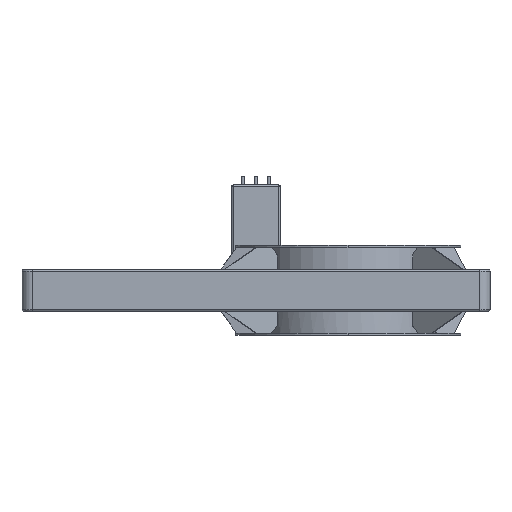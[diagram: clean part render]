
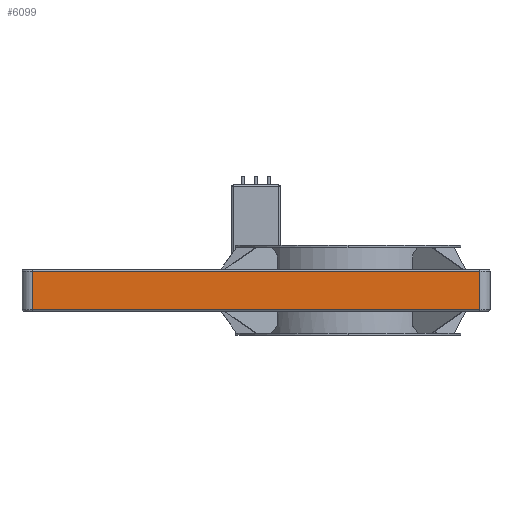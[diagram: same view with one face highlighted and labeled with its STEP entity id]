
A CAD part, front view. The second image highlights one B-rep face of the part: STEP entity #6099.
In plain terms, the highlighted free-form (B-spline) face has degree [1, 1] with [2, 2] control points.
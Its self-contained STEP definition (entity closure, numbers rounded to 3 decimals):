
#6044=CARTESIAN_POINT('',(-458.928,-158.5,-28.));
#6045=VERTEX_POINT('',#6044);
#6054=CARTESIAN_POINT('',(-458.928,-158.5,28.));
#6055=VERTEX_POINT('',#6054);
#6056=CARTESIAN_POINT('',(-458.928,-158.5,-28.));
#6057=CARTESIAN_POINT('',(-458.928,-158.5,28.));
#6058=B_SPLINE_CURVE_WITH_KNOTS('',1,(#6056,#6057),.POLYLINE_FORM.,.F.,.U.,(2,2),(0.033,0.967),.UNSPECIFIED.);
#6059=EDGE_CURVE('',#6045,#6055,#6058,.T.);
#6072=CARTESIAN_POINT('',(-458.928,-158.5,-30.));
#6073=CARTESIAN_POINT('',(-458.928,-158.5,30.));
#6074=CARTESIAN_POINT('',(190.928,-158.5,-30.));
#6075=CARTESIAN_POINT('',(190.928,-158.5,30.));
#6076=B_SPLINE_SURFACE_WITH_KNOTS('',1,1,((#6072,#6073),(#6074,#6075)),.PLANE_SURF.,.F.,.F.,.U.,(2,2),(2,2),(0.,1.),(0.,1.),.UNSPECIFIED.);
#6077=ORIENTED_EDGE('',*,*,#6059,.F.);
#6078=CARTESIAN_POINT('',(190.928,-158.5,-28.));
#6079=VERTEX_POINT('',#6078);
#6080=CARTESIAN_POINT('',(-458.928,-158.5,-28.));
#6081=CARTESIAN_POINT('',(190.928,-158.5,-28.));
#6082=B_SPLINE_CURVE_WITH_KNOTS('',1,(#6080,#6081),.POLYLINE_FORM.,.F.,.U.,(2,2),(0.,1.),.UNSPECIFIED.);
#6083=EDGE_CURVE('',#6045,#6079,#6082,.T.);
#6084=ORIENTED_EDGE('',*,*,#6083,.T.);
#6085=CARTESIAN_POINT('',(190.928,-158.5,28.));
#6086=VERTEX_POINT('',#6085);
#6087=CARTESIAN_POINT('',(190.928,-158.5,-28.));
#6088=CARTESIAN_POINT('',(190.928,-158.5,28.));
#6089=B_SPLINE_CURVE_WITH_KNOTS('',1,(#6087,#6088),.POLYLINE_FORM.,.F.,.U.,(2,2),(0.033,0.967),.UNSPECIFIED.);
#6090=EDGE_CURVE('',#6079,#6086,#6089,.T.);
#6091=ORIENTED_EDGE('',*,*,#6090,.T.);
#6092=CARTESIAN_POINT('',(-458.928,-158.5,28.));
#6093=CARTESIAN_POINT('',(190.928,-158.5,28.));
#6094=B_SPLINE_CURVE_WITH_KNOTS('',1,(#6092,#6093),.POLYLINE_FORM.,.F.,.U.,(2,2),(0.,1.),.UNSPECIFIED.);
#6095=EDGE_CURVE('',#6055,#6086,#6094,.T.);
#6096=ORIENTED_EDGE('',*,*,#6095,.F.);
#6097=EDGE_LOOP('',(#6077,#6084,#6091,#6096));
#6098=FACE_OUTER_BOUND('',#6097,.T.);
#6099=ADVANCED_FACE('',(#6098),#6076,.T.);
